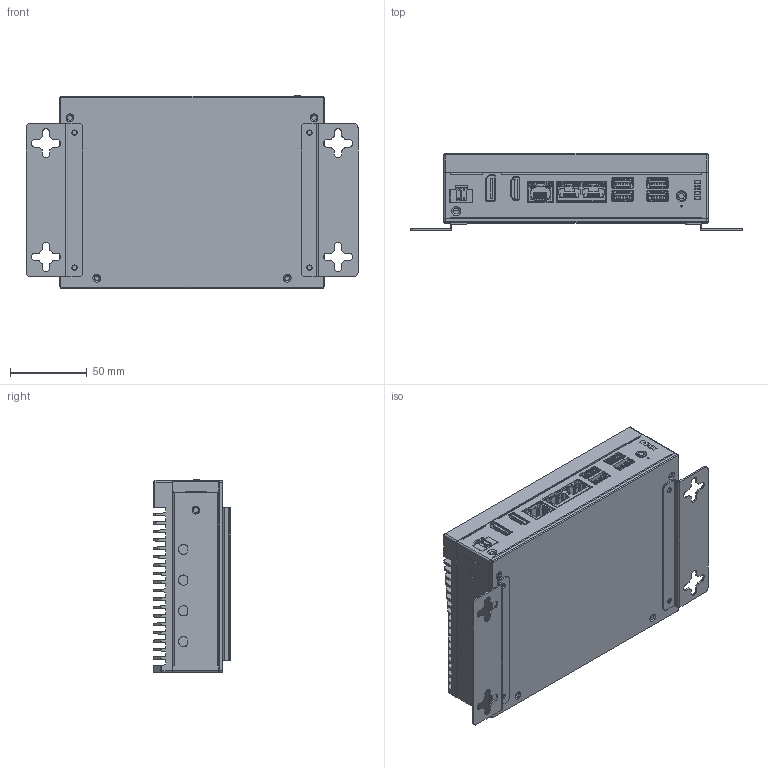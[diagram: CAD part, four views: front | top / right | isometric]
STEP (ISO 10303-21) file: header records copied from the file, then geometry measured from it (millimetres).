
FILE_DESCRIPTION((''),'2;1');
FILE_NAME('JH_1_1','2025-06-19T18:48:27',('Administrator'),(''),'CREO PARAMETRIC BY PTC INC, 2022073','CREO PARAMETRIC BY PTC INC, 2022073','');
FILE_SCHEMA(('AUTOMOTIVE_DESIGN { 1 0 10303 214 1 1 1 1 }'));
Products named in the file (1): JH_1_1
Bounding box: 216.2 x 50.2 x 125.37 mm (x, y, z)
Volume: 607610.5 mm3; surface area: 233730.2 mm2
Topology: 1 solids, 25 shells, 5555 faces, 15948 edges, 10235 vertices
Faces by surface type: plane 4221, cylinder 1159, bspline 104, torus 28, sphere 23, cone 20
Entity records: 231462 total; most frequent: CARTESIAN_POINT 37559, ORIENTED_EDGE 31836, DIRECTION 28125, PRESENTATION_STYLE_ASSIGNMENT 15929, STYLED_ITEM 15921, CURVE_STYLE 15920, EDGE_CURVE 15918, VECTOR 13224
